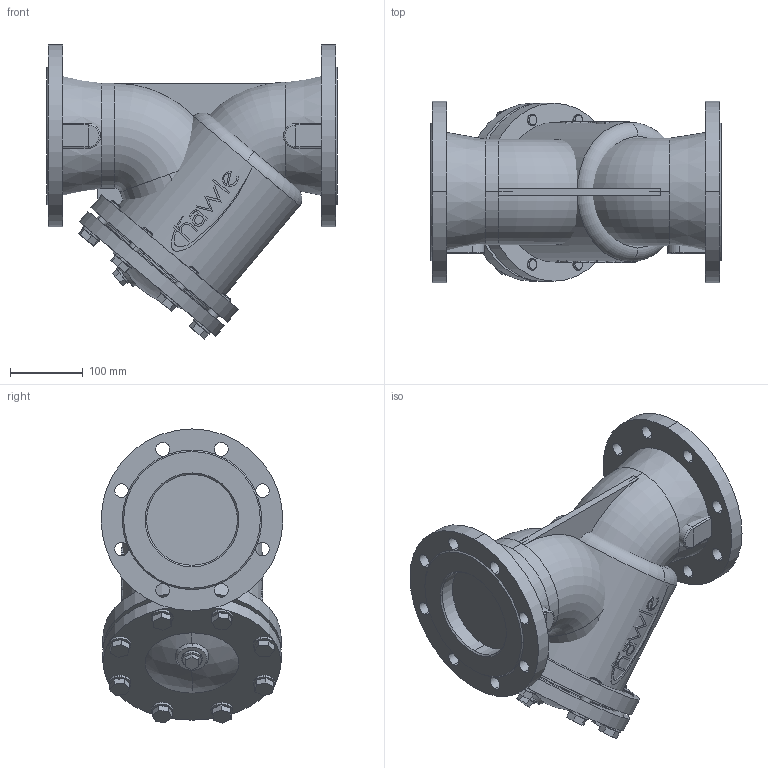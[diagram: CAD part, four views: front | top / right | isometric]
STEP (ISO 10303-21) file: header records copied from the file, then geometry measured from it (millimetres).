
FILE_DESCRIPTION(('STEP AP214'),'1');
FILE_NAME('S:/EK/USER/CAT6/3DHomepage/9910/9910-PN16-DN125.STP','2012-04-26T09:32:37',(' '),(' '),'Spatial InterOp 3D',' ',' ');
FILE_SCHEMA(('automotive_design'));
Length unit declared in the file: millimetre
Products named in the file (81): 3D-Objekt
Bounding box: 400 x 250 x 404.54 mm (x, y, z)
Volume: 14503358.7 mm3; surface area: 1382215.8 mm2
Topology: 81 solids, 81 shells, 542 faces, 1138 edges, 760 vertices
Faces by surface type: plane 309, cylinder 195, cone 26, torus 10, sphere 2
Entity records: 20910 total; most frequent: DIRECTION 2863, CARTESIAN_POINT 2517, ORIENTED_EDGE 2268, EDGE_CURVE 1134, AXIS2_PLACEMENT_3D 1106, VERTEX_POINT 760, LINE 651, VECTOR 651
